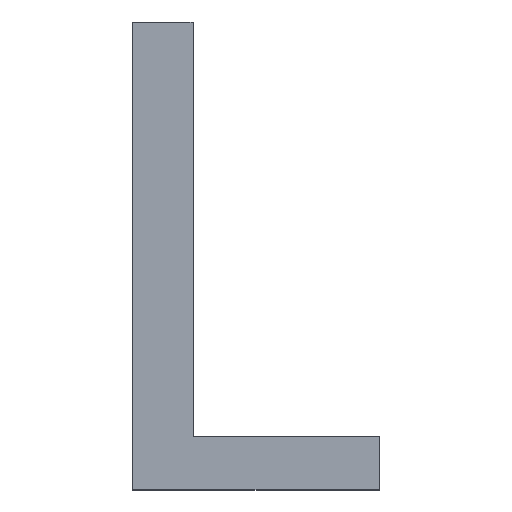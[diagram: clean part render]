
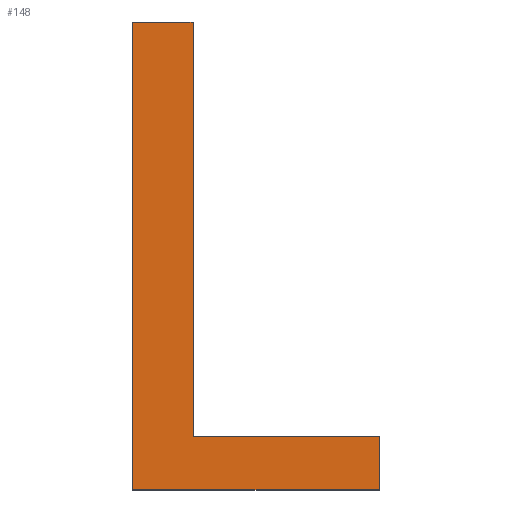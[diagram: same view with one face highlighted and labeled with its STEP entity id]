
A CAD part, top view. The second image highlights one B-rep face of the part: STEP entity #148.
In plain terms, the highlighted planar face has unit normal (0, 0, 1).
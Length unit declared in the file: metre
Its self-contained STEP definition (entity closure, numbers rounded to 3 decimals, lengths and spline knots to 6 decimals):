
#18=ORIENTED_EDGE('',*,*,#54,.T.);
#19=ORIENTED_EDGE('',*,*,#55,.T.);
#20=ORIENTED_EDGE('',*,*,#56,.T.);
#21=ORIENTED_EDGE('',*,*,#57,.T.);
#22=ORIENTED_EDGE('',*,*,#58,.T.);
#23=ORIENTED_EDGE('',*,*,#59,.T.);
#54=EDGE_CURVE('',#72,#73,#84,.T.);
#55=EDGE_CURVE('',#73,#74,#85,.T.);
#56=EDGE_CURVE('',#74,#75,#86,.T.);
#57=EDGE_CURVE('',#75,#76,#87,.T.);
#58=EDGE_CURVE('',#76,#77,#88,.T.);
#59=EDGE_CURVE('',#77,#72,#89,.T.);
#72=VERTEX_POINT('',#276);
#73=VERTEX_POINT('',#277);
#74=VERTEX_POINT('',#279);
#75=VERTEX_POINT('',#281);
#76=VERTEX_POINT('',#283);
#77=VERTEX_POINT('',#285);
#84=LINE('',#275,#102);
#85=LINE('',#278,#103);
#86=LINE('',#280,#104);
#87=LINE('',#282,#105);
#88=LINE('',#284,#106);
#89=LINE('',#286,#107);
#102=VECTOR('',#236,1.);
#103=VECTOR('',#237,1.);
#104=VECTOR('',#238,1.);
#105=VECTOR('',#239,1.);
#106=VECTOR('',#240,1.);
#107=VECTOR('',#241,1.);
#115=EDGE_LOOP('',(#18,#19,#20,#21,#22,#23));
#123=FACE_BOUND('',#115,.T.);
#131=PLANE('',#217);
#148=ADVANCED_FACE('',(#123),#131,.F.);
#217=AXIS2_PLACEMENT_3D('',#274,#234,#235);
#234=DIRECTION('',(0.,0.,-1.));
#235=DIRECTION('',(-1.,0.,0.));
#236=DIRECTION('',(0.,1.,0.));
#237=DIRECTION('',(-1.,0.,0.));
#238=DIRECTION('',(0.,1.,0.));
#239=DIRECTION('',(-1.,0.,0.));
#240=DIRECTION('',(0.,-1.,0.));
#241=DIRECTION('',(1.,0.,0.));
#274=CARTESIAN_POINT('',(-0.105595,-0.007956,0.024401));
#275=CARTESIAN_POINT('',(-0.064322,-0.006971,0.024401));
#276=CARTESIAN_POINT('',(-0.064322,-0.007062,0.024401));
#277=CARTESIAN_POINT('',(-0.064322,-0.006971,0.024401));
#278=CARTESIAN_POINT('',(-0.064637,-0.006971,0.024401));
#279=CARTESIAN_POINT('',(-0.064637,-0.006971,0.024401));
#280=CARTESIAN_POINT('',(-0.064637,-0.006269,0.024401));
#281=CARTESIAN_POINT('',(-0.064637,-0.006269,0.024401));
#282=CARTESIAN_POINT('',(-0.06474,-0.006269,0.024401));
#283=CARTESIAN_POINT('',(-0.06474,-0.006269,0.024401));
#284=CARTESIAN_POINT('',(-0.06474,-0.007062,0.024401));
#285=CARTESIAN_POINT('',(-0.06474,-0.007062,0.024401));
#286=CARTESIAN_POINT('',(-0.064322,-0.007062,0.024401));
